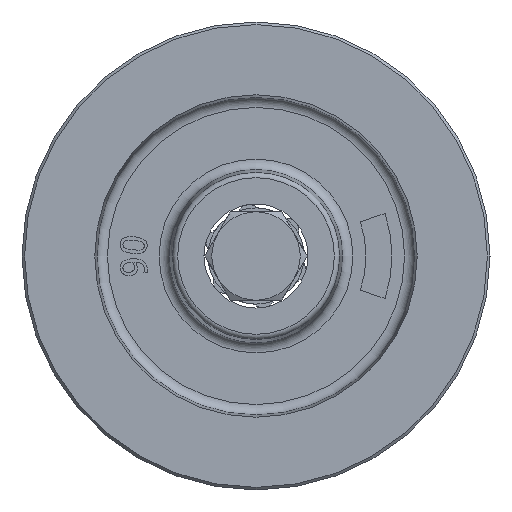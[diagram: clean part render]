
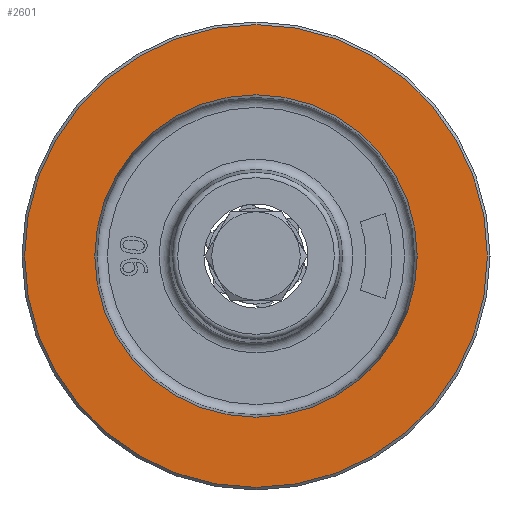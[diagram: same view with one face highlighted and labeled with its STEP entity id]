
A CAD part, left-side view. The second image highlights one B-rep face of the part: STEP entity #2601.
In plain terms, the highlighted planar face has unit normal (-1, 0, 0) as drawn and (1, 0, 0) by its records, which use the part's own axes.
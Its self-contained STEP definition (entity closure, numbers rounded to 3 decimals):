
#205=CIRCLE('',#2898,31.);
#223=CIRCLE('',#2927,44.5);
#355=FACE_BOUND('',#668,.T.);
#395=PLANE('',#2926);
#495=FACE_OUTER_BOUND('',#667,.T.);
#667=EDGE_LOOP('',(#2043));
#668=EDGE_LOOP('',(#2044));
#1218=VERTEX_POINT('',#4580);
#1232=VERTEX_POINT('',#4627);
#1502=EDGE_CURVE('',#1218,#1218,#205,.T.);
#1523=EDGE_CURVE('',#1232,#1232,#223,.T.);
#2043=ORIENTED_EDGE('',*,*,#1523,.F.);
#2044=ORIENTED_EDGE('',*,*,#1502,.T.);
#2601=ADVANCED_FACE('',(#495,#355),#395,.T.);
#2898=AXIS2_PLACEMENT_3D('',#4582,#3284,#3285);
#2926=AXIS2_PLACEMENT_3D('',#4626,#3343,#3344);
#2927=AXIS2_PLACEMENT_3D('',#4628,#3345,#3346);
#3284=DIRECTION('center_axis',(-1.,0.,0.));
#3285=DIRECTION('ref_axis',(0.,-1.,0.));
#3343=DIRECTION('center_axis',(1.,0.,0.));
#3344=DIRECTION('ref_axis',(0.,0.,-1.));
#3345=DIRECTION('center_axis',(-1.,0.,0.));
#3346=DIRECTION('ref_axis',(0.,-1.,0.));
#4580=CARTESIAN_POINT('',(10.5,31.,0.));
#4582=CARTESIAN_POINT('Origin',(10.5,0.,0.));
#4626=CARTESIAN_POINT('Origin',(10.5,-37.75,0.));
#4627=CARTESIAN_POINT('',(10.5,44.5,0.));
#4628=CARTESIAN_POINT('Origin',(10.5,0.,0.));
